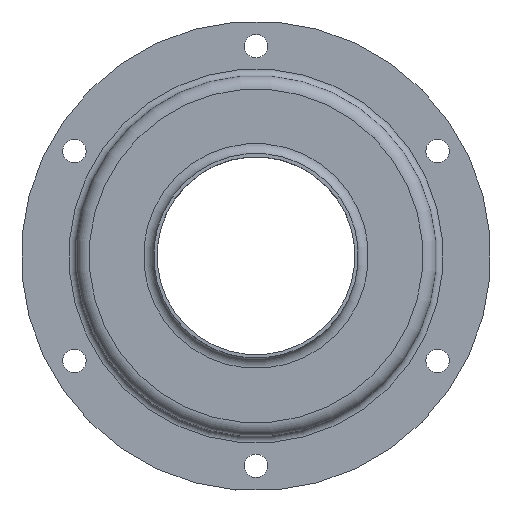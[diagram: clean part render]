
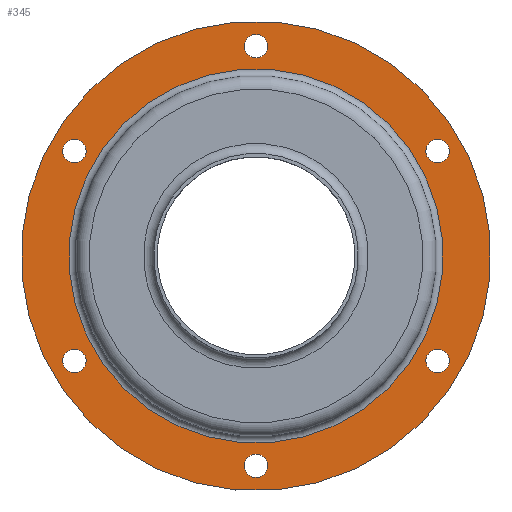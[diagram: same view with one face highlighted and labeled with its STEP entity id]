
A CAD part, top view. The second image highlights one B-rep face of the part: STEP entity #345.
In plain terms, the highlighted planar face has unit normal (0, 0, 1).
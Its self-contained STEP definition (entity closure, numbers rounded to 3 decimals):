
#345=ADVANCED_FACE('',(#690,#692,#694,#696,#698,#700,#702,#704),#706,.F.);
#690=FACE_BOUND('',#691,.T.);
#691=EDGE_LOOP('',(#981));
#692=FACE_BOUND('',#693,.T.);
#693=EDGE_LOOP('',(#982));
#694=FACE_BOUND('',#695,.T.);
#695=EDGE_LOOP('',(#983));
#696=FACE_BOUND('',#697,.T.);
#697=EDGE_LOOP('',(#984));
#698=FACE_BOUND('',#699,.T.);
#699=EDGE_LOOP('',(#985));
#700=FACE_BOUND('',#701,.T.);
#701=EDGE_LOOP('',(#986));
#702=FACE_BOUND('',#703,.T.);
#703=EDGE_LOOP('',(#987));
#704=FACE_BOUND('',#705,.T.);
#705=EDGE_LOOP('',(#988,#989));
#706=PLANE('',#707);
#707=AXIS2_PLACEMENT_3D('',#708,#709,#710);
#708=CARTESIAN_POINT('',(0.,-55.75,1.5));
#709=DIRECTION('',(0.,0.,-1.));
#710=DIRECTION('',(-1.,0.,0.));
#981=ORIENTED_EDGE('',*,*,#1115,.F.);
#982=ORIENTED_EDGE('',*,*,#1116,.F.);
#983=ORIENTED_EDGE('',*,*,#1117,.F.);
#984=ORIENTED_EDGE('',*,*,#1118,.F.);
#985=ORIENTED_EDGE('',*,*,#1119,.F.);
#986=ORIENTED_EDGE('',*,*,#1120,.F.);
#987=ORIENTED_EDGE('',*,*,#1103,.F.);
#988=ORIENTED_EDGE('',*,*,#1121,.T.);
#989=ORIENTED_EDGE('',*,*,#1122,.T.);
#1103=EDGE_CURVE('',#1188,#1188,#1189,.F.);
#1115=EDGE_CURVE('',#1212,#1212,#1213,.T.);
#1116=EDGE_CURVE('',#1214,#1214,#1215,.F.);
#1117=EDGE_CURVE('',#1216,#1216,#1217,.F.);
#1118=EDGE_CURVE('',#1218,#1218,#1219,.F.);
#1119=EDGE_CURVE('',#1220,#1220,#1221,.F.);
#1120=EDGE_CURVE('',#1222,#1222,#1223,.F.);
#1121=EDGE_CURVE('',#1224,#1225,#1226,.T.);
#1122=EDGE_CURVE('',#1225,#1224,#1227,.T.);
#1188=VERTEX_POINT('',#1355);
#1189=CIRCLE('',#1356,3.5);
#1212=VERTEX_POINT('',#1415);
#1213=CIRCLE('',#1416,70.);
#1214=VERTEX_POINT('',#1420);
#1215=CIRCLE('',#1421,3.5);
#1216=VERTEX_POINT('',#1425);
#1217=CIRCLE('',#1426,3.5);
#1218=VERTEX_POINT('',#1430);
#1219=CIRCLE('',#1431,3.5);
#1220=VERTEX_POINT('',#1435);
#1221=CIRCLE('',#1436,3.5);
#1222=VERTEX_POINT('',#1440);
#1223=CIRCLE('',#1441,3.5);
#1224=VERTEX_POINT('',#1445);
#1225=VERTEX_POINT('',#1446);
#1226=CIRCLE('',#1447,55.75);
#1227=CIRCLE('',#1451,55.75);
#1355=CARTESIAN_POINT('',(-60.144,-26.414,1.5));
#1356=AXIS2_PLACEMENT_3D('',#1357,#1358,#1359);
#1357=CARTESIAN_POINT('',(-56.644,-26.414,1.5));
#1358=DIRECTION('',(0.,0.,-1.));
#1359=DIRECTION('',(-1.,0.,0.));
#1415=CARTESIAN_POINT('',(-70.,0.,1.5));
#1416=AXIS2_PLACEMENT_3D('',#1417,#1418,#1419);
#1417=CARTESIAN_POINT('',(0.,0.,1.5));
#1418=DIRECTION('',(0.,0.,-1.));
#1419=DIRECTION('',(-1.,0.,0.));
#1420=CARTESIAN_POINT('',(47.697,-35.849,1.5));
#1421=AXIS2_PLACEMENT_3D('',#1422,#1423,#1424);
#1422=CARTESIAN_POINT('',(51.197,-35.849,1.5));
#1423=DIRECTION('',(0.,0.,-1.));
#1424=DIRECTION('',(-1.,0.,0.));
#1425=CARTESIAN_POINT('',(-8.947,-62.262,1.5));
#1426=AXIS2_PLACEMENT_3D('',#1427,#1428,#1429);
#1427=CARTESIAN_POINT('',(-5.447,-62.262,1.5));
#1428=DIRECTION('',(0.,0.,-1.));
#1429=DIRECTION('',(-1.,0.,0.));
#1430=CARTESIAN_POINT('',(53.144,26.414,1.5));
#1431=AXIS2_PLACEMENT_3D('',#1432,#1433,#1434);
#1432=CARTESIAN_POINT('',(56.644,26.414,1.5));
#1433=DIRECTION('',(0.,0.,-1.));
#1434=DIRECTION('',(-1.,0.,0.));
#1435=CARTESIAN_POINT('',(1.947,62.262,1.5));
#1436=AXIS2_PLACEMENT_3D('',#1437,#1438,#1439);
#1437=CARTESIAN_POINT('',(5.447,62.262,1.5));
#1438=DIRECTION('',(0.,0.,-1.));
#1439=DIRECTION('',(-1.,0.,0.));
#1440=CARTESIAN_POINT('',(-54.697,35.849,1.5));
#1441=AXIS2_PLACEMENT_3D('',#1442,#1443,#1444);
#1442=CARTESIAN_POINT('',(-51.197,35.849,1.5));
#1443=DIRECTION('',(0.,0.,-1.));
#1444=DIRECTION('',(-1.,0.,0.));
#1445=CARTESIAN_POINT('',(-55.75,0.,1.5));
#1446=CARTESIAN_POINT('',(55.75,0.,1.5));
#1447=AXIS2_PLACEMENT_3D('',#1448,#1449,#1450);
#1448=CARTESIAN_POINT('',(0.,0.,1.5));
#1449=DIRECTION('',(0.,0.,-1.));
#1450=DIRECTION('',(-1.,0.,0.));
#1451=AXIS2_PLACEMENT_3D('',#1452,#1453,#1454);
#1452=CARTESIAN_POINT('',(0.,0.,1.5));
#1453=DIRECTION('',(0.,0.,-1.));
#1454=DIRECTION('',(1.,0.,0.));
